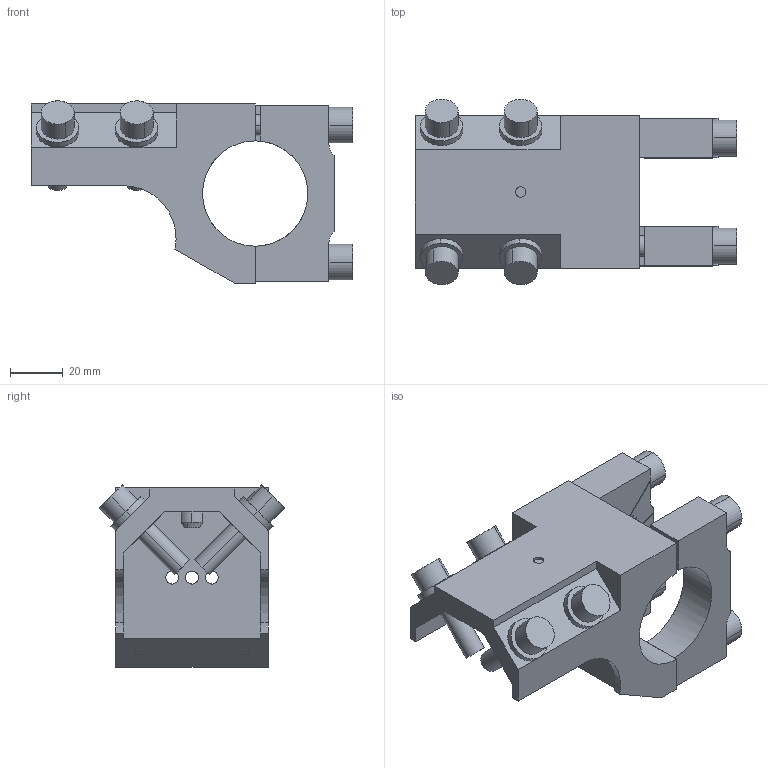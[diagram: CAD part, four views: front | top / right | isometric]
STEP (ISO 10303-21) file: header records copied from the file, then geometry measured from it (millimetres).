
FILE_DESCRIPTION(('STEP AP214'),'1');
FILE_NAME('EGT117_1720216_50RD40_T90.CATPart.stp','2015-09-14T13:08:55',('3D-Tool'),(' '),'Spatial InterOp 3D',' ',' ');
FILE_SCHEMA(('automotive_design'));
Length unit declared in the file: millimetre
Products named in the file (12): EGT117_1720216_50RD40_T90|EGT117_50RD40_T90|Bohrbearbeitung; EGT117_1720216_50RD40_T90|EGT206_SCHELLE_RD40_2|Assemble.113; EGT117_1720216_50RD40_T90|EGT206_SCHELLE_RD40_1|Assemble.114; 1; 2; 3; 4; 5; 6; 7; 8; EGT117_1720216_50RD40_T90|EGT212_Zentrierstift|Pad.13
Bounding box: 122 x 70.36 x 69.18 mm (x, y, z)
Volume: 154053.7 mm3; surface area: 56346.5 mm2
Topology: 12 solids, 12 shells, 470 faces, 1237 edges, 754 vertices
Faces by surface type: plane 204, cylinder 198, cone 68
Entity records: 19134 total; most frequent: CARTESIAN_POINT 3795, DIRECTION 2367, ORIENTED_EDGE 2346, EDGE_CURVE 1173, AXIS2_PLACEMENT_3D 866, VERTEX_POINT 754, LINE 635, VECTOR 635
